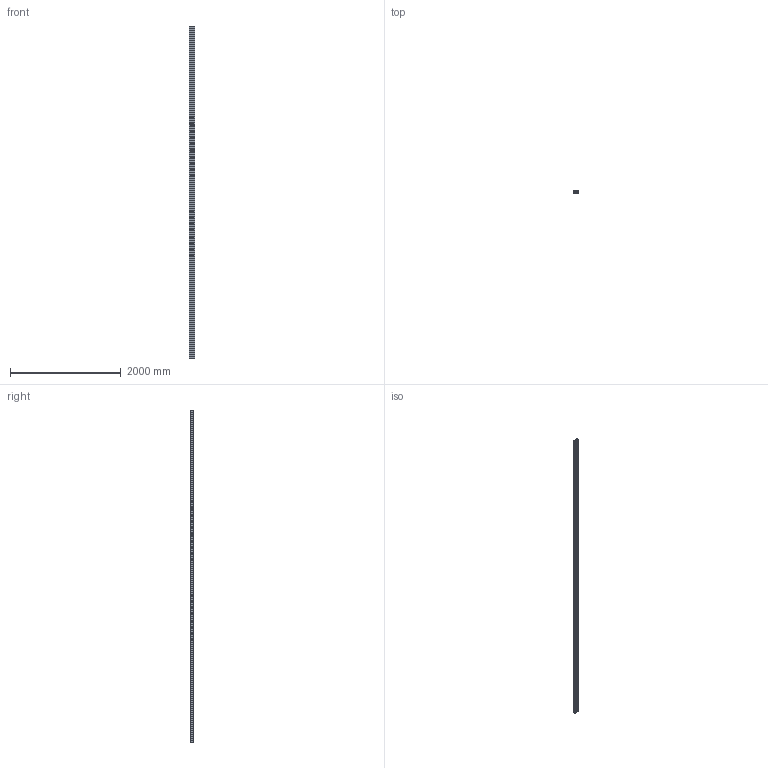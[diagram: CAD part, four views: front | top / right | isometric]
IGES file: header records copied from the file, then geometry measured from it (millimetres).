
Start section: SolidWorks IGES file using analytic representation for surfaces
Global section: file name: C:\Users\Ahmed\Desktop\Aluminium profiles\50x100 Slot 10.IGS; native system: SolidWorks 2016; preprocessor: SolidWorks 2016; author: Ahmed; date: 170806.233453; units: millimetre
Bounding box: 100 x 50 x 6000 mm (x, y, z)
Surface area: 6336194.9 mm2 (no closed solid volume)
Topology: 0 solids, 0 shells, 388 faces, 3695 edges, 3695 vertices
Faces by surface type: bspline 306, revolution 82
